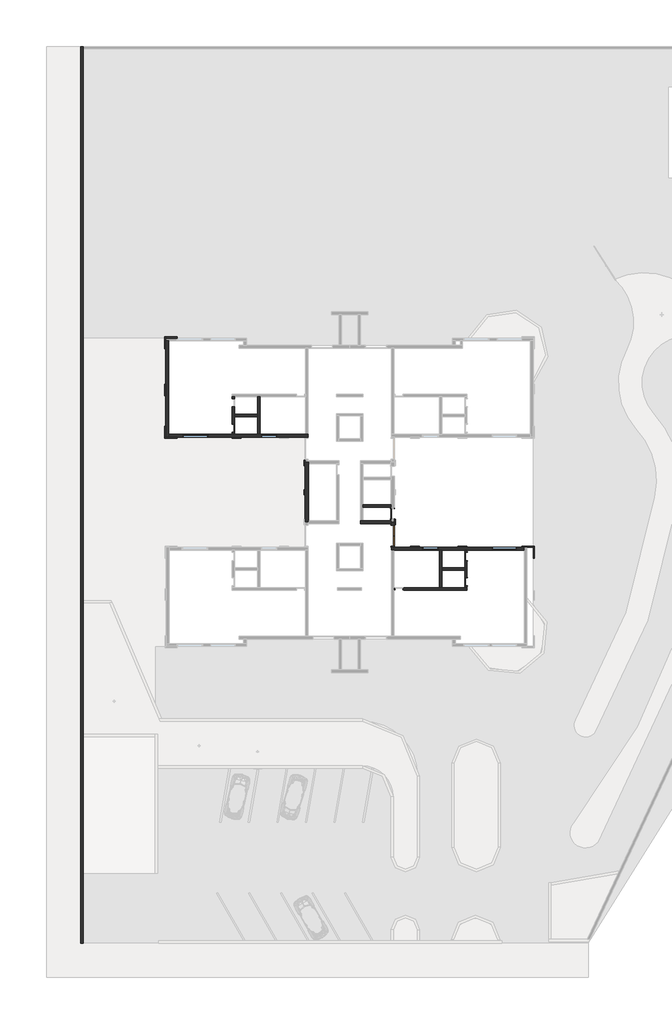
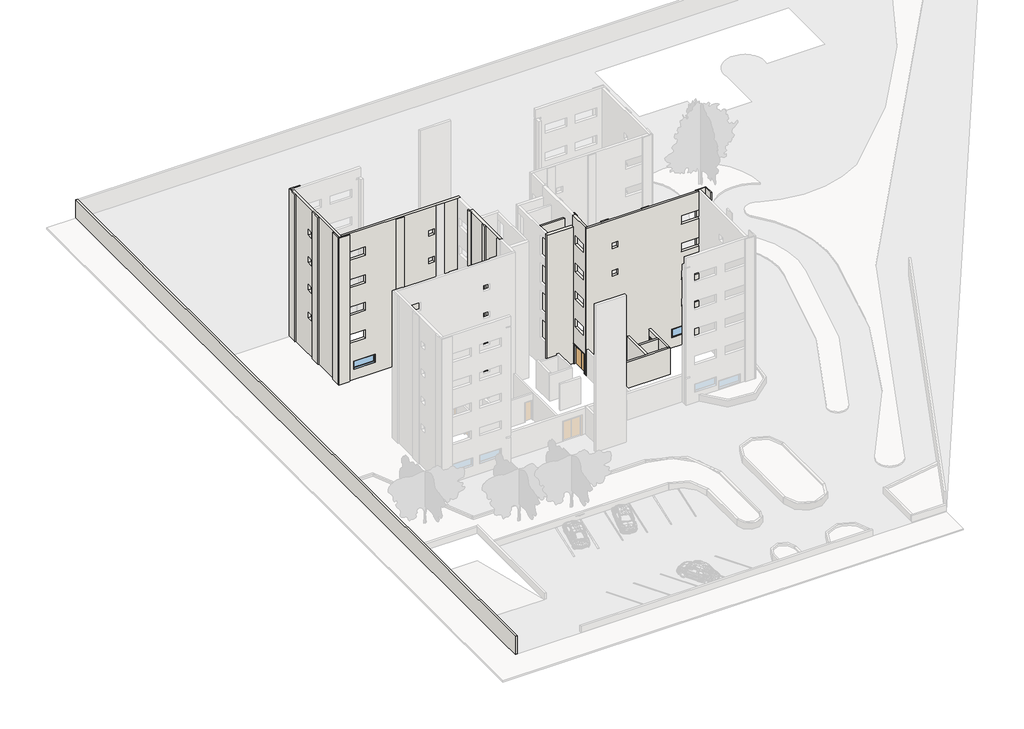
# One storey, part 3 of 6: 28 walls, 5 doors, 4 windows.
"""IFC4 building model written with IfcOpenShell, lengths in millimetres."""

from ifc_helpers import new_model, si_unit, origin, origin_with_axes, place, context, project, spatial, polyline, outline, extrude, faceted_brep, transform, mapped, element, save
from components import door_1830_x_2134_mm_dff67cf6, door_70_x_210_60989ca5, door_70_x_210_2a34fc55, door_90_x_210_977b44a1, window_140_x_90_5d7f9c6b, window_220_x_90_84e01c73

model = new_model("IFC4")

# Units and contexts
model_context = context("Model", 3, world=origin())
ifc_project = project(units=[si_unit("LENGTHUNIT", "METRE", prefix="MILLI")], contexts=[model_context])

# Site, building, storey
site = spatial("IfcSite", under=ifc_project)
building = spatial("IfcBuilding", under=site)
storey = spatial("IfcBuildingStorey", under=building, Name="Térreo", Elevation=0.0)

# Doors
placement = place(None, origin())
door_1830_x_2134_mm_shape = door_1830_x_2134_mm_dff67cf6(model_context)
element("IfcDoor", 1, ObjectType="Descarga dupla : 1830 x 2134 mm", at=placement, inside=storey, context=model_context, shape_type="MappedRepresentation", body=[
    mapped(door_1830_x_2134_mm_shape, transform((2748.7734258, -3016.3385375, 0.0), x_axis=(0.0, 1.0, 0.0), y_axis=(-1.0, 0.0, 0.0), z_axis=(0.0, 0.0, 1.0))),
])
door_70_x_210_shape = door_70_x_210_60989ca5(model_context)
element("IfcDoor", 2, ObjectType="M_Descarga simples : 70 x 210", at=placement, inside=storey, context=model_context, shape_type="MappedRepresentation", body=[
    mapped(door_70_x_210_shape, transform((-11191.2265742, 6383.6614625, 0.0), x_axis=(0.0, -1.0, 0.0), y_axis=(1.0, 0.0, 0.0), z_axis=(0.0, 0.0, 1.0))),
])
element("IfcDoor", 3, ObjectType="M_Descarga simples : 70 x 210", at=placement, inside=storey, context=model_context, shape_type="MappedRepresentation", body=[
    mapped(door_70_x_210_shape, transform((9138.7734258, -4836.3385375, 0.0), x_axis=(0.0, 1.0, 0.0), y_axis=(-1.0, 0.0, 0.0), z_axis=(0.0, 0.0, 1.0))),
])
door_70_x_210_2_shape = door_70_x_210_2a34fc55(model_context)
element("IfcDoor", 4, ObjectType="M_Descarga simples : 70 x 210", at=placement, inside=storey, context=model_context, shape_type="MappedRepresentation", body=[
    mapped(door_70_x_210_2_shape, transform((9138.7734258, -7036.3385375, 0.0), x_axis=(0.0, -1.0, 0.0), y_axis=(1.0, 0.0, 0.0), z_axis=(0.0, 0.0, 1.0))),
])
door_90_x_210_shape = door_90_x_210_977b44a1(model_context)
element("IfcDoor", 5, ObjectType="M_Descarga simples : 90 x 210", at=placement, inside=storey, context=model_context, shape_type="MappedRepresentation", body=[
    mapped(door_90_x_210_shape, transform((2723.7734258, -1106.3385375, 0.0), x_axis=(0.0, -1.0, 0.0), y_axis=(1.0, 0.0, 0.0), z_axis=(0.0, 0.0, 1.0))),
])

# Walls
element("IfcWall", 6, ObjectType="Exeterna 25", at=placement, inside=storey, context=model_context, shape_type="Brep", body=[
    faceted_brep([(-17116.2265742, 13983.6614625, 0.0), (-17116.2265742, 5583.6614625, 0.0), (-17116.2265742, 5583.6614625, 16000.0), (-17116.2265742, 13983.6614625, 16000.0), (-17116.2265742, 10513.6614625, 3915.0), (-17116.2265742, 11113.6614625, 3915.0), (-17116.2265742, 11113.6614625, 4515.0), (-17116.2265742, 10513.6614625, 4515.0), (-17116.2265742, 10513.6614625, 6915.0), (-17116.2265742, 11113.6614625, 6915.0), (-17116.2265742, 11113.6614625, 7515.0), (-17116.2265742, 10513.6614625, 7515.0), (-17116.2265742, 10513.6614625, 9915.0), (-17116.2265742, 11113.6614625, 9915.0), (-17116.2265742, 11113.6614625, 10515.0), (-17116.2265742, 10513.6614625, 10515.0), (-17116.2265742, 10513.6614625, 12915.0), (-17116.2265742, 11113.6614625, 12915.0), (-17116.2265742, 11113.6614625, 13515.0), (-17116.2265742, 10513.6614625, 13515.0), (-16866.2265742, 13983.6614625, 0.0), (-16866.2265742, 13983.6614625, 2850.0), (-16866.2265742, 13983.6614625, 3000.0), (-16866.2265742, 13983.6614625, 14850.0), (-16866.2265742, 13983.6614625, 15000.0), (-16866.2265742, 13983.6614625, 16000.0), (-16866.2265742, 5833.6614625, 16000.0), (-16866.2265742, 5583.6614625, 16000.0), (-16866.2265742, 5583.6614625, 0.0), (-16866.2265742, 5833.6614625, 0.0), (-16866.2265742, 10513.6614625, 3915.0), (-16866.2265742, 10513.6614625, 4515.0), (-16866.2265742, 11113.6614625, 4515.0), (-16866.2265742, 11113.6614625, 3915.0), (-16866.2265742, 10513.6614625, 6915.0), (-16866.2265742, 10513.6614625, 7515.0), (-16866.2265742, 11113.6614625, 7515.0), (-16866.2265742, 11113.6614625, 6915.0), (-16866.2265742, 10513.6614625, 9915.0), (-16866.2265742, 10513.6614625, 10515.0), (-16866.2265742, 11113.6614625, 10515.0), (-16866.2265742, 11113.6614625, 9915.0), (-16866.2265742, 10513.6614625, 12915.0), (-16866.2265742, 10513.6614625, 13515.0), (-16866.2265742, 11113.6614625, 13515.0), (-16866.2265742, 11113.6614625, 12915.0)], [[[0, 1, 2, 3], [4, 5, 6, 7], [8, 9, 10, 11], [12, 13, 14, 15], [16, 17, 18, 19]], [[20, 21, 22, 23, 24, 25, 26, 27, 28, 29], [30, 31, 32, 33], [34, 35, 36, 37], [38, 39, 40, 41], [42, 43, 44, 45]], [[1, 0, 20, 29, 28]], [[3, 2, 27, 26, 25]], [[2, 1, 28, 27]], [[0, 3, 25, 24, 23, 22, 21, 20]], [[31, 30, 4, 7]], [[32, 31, 7, 6]], [[33, 32, 6, 5]], [[30, 33, 5, 4]], [[35, 34, 8, 11]], [[36, 35, 11, 10]], [[37, 36, 10, 9]], [[34, 37, 9, 8]], [[39, 38, 12, 15]], [[40, 39, 15, 14]], [[41, 40, 14, 13]], [[38, 41, 13, 12]], [[43, 42, 16, 19]], [[44, 43, 19, 18]], [[45, 44, 18, 17]], [[42, 45, 17, 16]]]),
])
element("IfcWall", 7, ObjectType="Exeterna 25", at=placement, inside=storey, context=model_context, shape_type="Brep", body=[
    faceted_brep([(-16866.2265742, 5583.6614625, 0.0), (-4926.2265742, 5583.6614625, 0.0), (-4676.2265742, 5583.6614625, 0.0), (-4676.2265742, 5583.6614625, 2850.0), (-4676.2265742, 5583.6614625, 3000.0), (-4676.2265742, 5583.6614625, 14850.0), (-4676.2265742, 5583.6614625, 15000.0), (-4676.2265742, 5583.6614625, 16000.0), (-4926.2265742, 5583.6614625, 16000.0), (-16866.2265742, 5583.6614625, 16000.0), (-7316.2265742, 5583.6614625, 4515.0), (-7316.2265742, 5583.6614625, 3915.0), (-7916.2265742, 5583.6614625, 3915.0), (-7916.2265742, 5583.6614625, 4515.0), (-14416.2265742, 5583.6614625, 5000.0), (-14416.2265742, 5583.6614625, 4100.0), (-16616.2265742, 5583.6614625, 4100.0), (-16616.2265742, 5583.6614625, 5000.0), (-7316.2265742, 5583.6614625, 7515.0), (-7316.2265742, 5583.6614625, 6915.0), (-7916.2265742, 5583.6614625, 6915.0), (-7916.2265742, 5583.6614625, 7515.0), (-14416.2265742, 5583.6614625, 8000.0), (-14416.2265742, 5583.6614625, 7100.0), (-16616.2265742, 5583.6614625, 7100.0), (-16616.2265742, 5583.6614625, 8000.0), (-7316.2265742, 5583.6614625, 10515.0), (-7316.2265742, 5583.6614625, 9915.0), (-7916.2265742, 5583.6614625, 9915.0), (-7916.2265742, 5583.6614625, 10515.0), (-14416.2265742, 5583.6614625, 11000.0), (-14416.2265742, 5583.6614625, 10100.0), (-16616.2265742, 5583.6614625, 10100.0), (-16616.2265742, 5583.6614625, 11000.0), (-7316.2265742, 5583.6614625, 13515.0), (-7316.2265742, 5583.6614625, 12915.0), (-7916.2265742, 5583.6614625, 12915.0), (-7916.2265742, 5583.6614625, 13515.0), (-14416.2265742, 5583.6614625, 14000.0), (-14416.2265742, 5583.6614625, 13100.0), (-16616.2265742, 5583.6614625, 13100.0), (-16616.2265742, 5583.6614625, 14000.0), (-13396.2265742, 5583.6614625, 2000.0), (-13396.2265742, 5583.6614625, 1100.0), (-15596.2265742, 5583.6614625, 1100.0), (-15596.2265742, 5583.6614625, 2000.0), (-7376.2265742, 5583.6614625, 2000.0), (-7376.2265742, 5583.6614625, 1100.0), (-8776.2265742, 5583.6614625, 1100.0), (-8776.2265742, 5583.6614625, 2000.0), (-4676.2265742, 5833.6614625, 0.0), (-4876.2265742, 5833.6614625, 0.0), (-8876.2265742, 5833.6614625, 0.0), (-9076.2265742, 5833.6614625, 0.0), (-11091.2265742, 5833.6614625, 0.0), (-11291.2265742, 5833.6614625, 0.0), (-16866.2265742, 5833.6614625, 0.0), (-16866.2265742, 5833.6614625, 2850.0), (-16866.2265742, 5833.6614625, 3000.0), (-16866.2265742, 5833.6614625, 14850.0), (-16866.2265742, 5833.6614625, 15000.0), (-16866.2265742, 5833.6614625, 16000.0), (-4676.2265742, 5833.6614625, 16000.0), (-4676.2265742, 5833.6614625, 15000.0), (-4676.2265742, 5833.6614625, 14850.0), (-4676.2265742, 5833.6614625, 12000.0), (-4676.2265742, 5833.6614625, 11850.0), (-4676.2265742, 5833.6614625, 9000.0), (-4676.2265742, 5833.6614625, 8850.0), (-4676.2265742, 5833.6614625, 6000.0), (-4676.2265742, 5833.6614625, 5850.0), (-4676.2265742, 5833.6614625, 3000.0), (-4676.2265742, 5833.6614625, 2850.0), (-7316.2265742, 5833.6614625, 3915.0), (-7316.2265742, 5833.6614625, 4515.0), (-7916.2265742, 5833.6614625, 4515.0), (-7916.2265742, 5833.6614625, 3915.0), (-14416.2265742, 5833.6614625, 4100.0), (-14416.2265742, 5833.6614625, 5000.0), (-16616.2265742, 5833.6614625, 5000.0), (-16616.2265742, 5833.6614625, 4100.0), (-7316.2265742, 5833.6614625, 6915.0), (-7316.2265742, 5833.6614625, 7515.0), (-7916.2265742, 5833.6614625, 7515.0), (-7916.2265742, 5833.6614625, 6915.0), (-14416.2265742, 5833.6614625, 7100.0), (-14416.2265742, 5833.6614625, 8000.0), (-16616.2265742, 5833.6614625, 8000.0), (-16616.2265742, 5833.6614625, 7100.0), (-7316.2265742, 5833.6614625, 9915.0), (-7316.2265742, 5833.6614625, 10515.0), (-7916.2265742, 5833.6614625, 10515.0), (-7916.2265742, 5833.6614625, 9915.0), (-14416.2265742, 5833.6614625, 10100.0), (-14416.2265742, 5833.6614625, 11000.0), (-16616.2265742, 5833.6614625, 11000.0), (-16616.2265742, 5833.6614625, 10100.0), (-7316.2265742, 5833.6614625, 12915.0), (-7316.2265742, 5833.6614625, 13515.0), (-7916.2265742, 5833.6614625, 13515.0), (-7916.2265742, 5833.6614625, 12915.0), (-14416.2265742, 5833.6614625, 13100.0), (-14416.2265742, 5833.6614625, 14000.0), (-16616.2265742, 5833.6614625, 14000.0), (-16616.2265742, 5833.6614625, 13100.0), (-13396.2265742, 5833.6614625, 1100.0), (-13396.2265742, 5833.6614625, 2000.0), (-15596.2265742, 5833.6614625, 2000.0), (-15596.2265742, 5833.6614625, 1100.0), (-7376.2265742, 5833.6614625, 1100.0), (-7376.2265742, 5833.6614625, 2000.0), (-8776.2265742, 5833.6614625, 2000.0), (-8776.2265742, 5833.6614625, 1100.0)], [[[0, 1, 2, 3, 4, 5, 6, 7, 8, 9], [10, 11, 12, 13], [14, 15, 16, 17], [18, 19, 20, 21], [22, 23, 24, 25], [26, 27, 28, 29], [30, 31, 32, 33], [34, 35, 36, 37], [38, 39, 40, 41], [42, 43, 44, 45], [46, 47, 48, 49]], [[50, 51, 52, 53, 54, 55, 56, 57, 58, 59, 60, 61, 62, 63, 64, 65, 66, 67, 68, 69, 70, 71, 72], [73, 74, 75, 76], [77, 78, 79, 80], [81, 82, 83, 84], [85, 86, 87, 88], [89, 90, 91, 92], [93, 94, 95, 96], [97, 98, 99, 100], [101, 102, 103, 104], [105, 106, 107, 108], [109, 110, 111, 112]], [[2, 1, 0, 56, 55, 54, 53, 52, 51, 50]], [[9, 8, 7, 62, 61]], [[0, 9, 61, 60, 59, 58, 57, 56]], [[74, 73, 11, 10]], [[75, 74, 10, 13]], [[76, 75, 13, 12]], [[73, 76, 12, 11]], [[78, 77, 15, 14]], [[79, 78, 14, 17]], [[80, 79, 17, 16]], [[77, 80, 16, 15]], [[2, 50, 72, 71, 70, 69, 68, 67, 66, 65, 64, 63, 62, 7, 6, 5, 4, 3]], [[82, 81, 19, 18]], [[83, 82, 18, 21]], [[84, 83, 21, 20]], [[81, 84, 20, 19]], [[86, 85, 23, 22]], [[87, 86, 22, 25]], [[88, 87, 25, 24]], [[85, 88, 24, 23]], [[90, 89, 27, 26]], [[91, 90, 26, 29]], [[92, 91, 29, 28]], [[89, 92, 28, 27]], [[94, 93, 31, 30]], [[95, 94, 30, 33]], [[96, 95, 33, 32]], [[93, 96, 32, 31]], [[98, 97, 35, 34]], [[99, 98, 34, 37]], [[100, 99, 37, 36]], [[97, 100, 36, 35]], [[102, 101, 39, 38]], [[103, 102, 38, 41]], [[104, 103, 41, 40]], [[101, 104, 40, 39]], [[106, 105, 43, 42]], [[107, 106, 42, 45]], [[108, 107, 45, 44]], [[105, 108, 44, 43]], [[110, 109, 47, 46]], [[111, 110, 46, 49]], [[112, 111, 49, 48]], [[109, 112, 48, 47]]]),
])
element("IfcWall", 8, ObjectType="Exeterna 25", at=placement, inside=storey, context=model_context, shape_type="Brep", body=[
    faceted_brep([(14223.269929, -4036.3385375, 0.0), (2873.7734258, -4036.3385375, 0.0), (2623.7734258, -4036.3385375, 0.0), (2623.7734258, -4036.3385375, 2850.0), (2623.7734258, -4036.3385375, 3000.0), (2623.7734258, -4036.3385375, 14850.0), (2623.7734258, -4036.3385375, 15000.0), (2623.7734258, -4036.3385375, 16000.0), (2873.7734258, -4036.3385375, 16000.0), (14223.269929, -4036.3385375, 16000.0), (14223.269929, -4036.3385375, 14000.0), (12363.7734258, -4036.3385375, 14000.0), (12363.7734258, -4036.3385375, 13100.0), (14223.269929, -4036.3385375, 13100.0), (14223.269929, -4036.3385375, 11000.0), (12363.7734258, -4036.3385375, 11000.0), (12363.7734258, -4036.3385375, 10100.0), (14223.269929, -4036.3385375, 10100.0), (14223.269929, -4036.3385375, 8000.0), (12363.7734258, -4036.3385375, 8000.0), (12363.7734258, -4036.3385375, 7100.0), (14223.269929, -4036.3385375, 7100.0), (14223.269929, -4036.3385375, 5000.0), (12363.7734258, -4036.3385375, 5000.0), (12363.7734258, -4036.3385375, 4100.0), (14223.269929, -4036.3385375, 4100.0), (5863.7734258, -4036.3385375, 3915.0), (5863.7734258, -4036.3385375, 4515.0), (5263.7734258, -4036.3385375, 4515.0), (5263.7734258, -4036.3385375, 3915.0), (5863.7734258, -4036.3385375, 6915.0), (5863.7734258, -4036.3385375, 7515.0), (5263.7734258, -4036.3385375, 7515.0), (5263.7734258, -4036.3385375, 6915.0), (5863.7734258, -4036.3385375, 9915.0), (5863.7734258, -4036.3385375, 10515.0), (5263.7734258, -4036.3385375, 10515.0), (5263.7734258, -4036.3385375, 9915.0), (5863.7734258, -4036.3385375, 12915.0), (5863.7734258, -4036.3385375, 13515.0), (5263.7734258, -4036.3385375, 13515.0), (5263.7734258, -4036.3385375, 12915.0), (11393.7734258, -4036.3385375, 2000.0), (11393.7734258, -4036.3385375, 1100.0), (13593.7734258, -4036.3385375, 1100.0), (13593.7734258, -4036.3385375, 2000.0), (5323.7734258, -4036.3385375, 2000.0), (5323.7734258, -4036.3385375, 1100.0), (6723.7734258, -4036.3385375, 1100.0), (6723.7734258, -4036.3385375, 2000.0), (2623.7734258, -4286.3385375, 0.0), (2823.7734258, -4286.3385375, 0.0), (6823.7734258, -4286.3385375, 0.0), (7023.7734258, -4286.3385375, 0.0), (9038.7734258, -4286.3385375, 0.0), (9238.7734258, -4286.3385375, 0.0), (14223.269929, -4286.3385375, 0.0), (14223.269929, -4286.3385375, 2850.0), (14223.269929, -4286.3385375, 3000.0), (14223.269929, -4286.3385375, 4100.0), (12363.7734258, -4286.3385375, 4100.0), (12363.7734258, -4286.3385375, 5000.0), (14223.269929, -4286.3385375, 5000.0), (14223.269929, -4286.3385375, 7100.0), (12363.7734258, -4286.3385375, 7100.0), (12363.7734258, -4286.3385375, 8000.0), (14223.269929, -4286.3385375, 8000.0), (14223.269929, -4286.3385375, 10100.0), (12363.7734258, -4286.3385375, 10100.0), (12363.7734258, -4286.3385375, 11000.0), (14223.269929, -4286.3385375, 11000.0), (14223.269929, -4286.3385375, 13100.0), (12363.7734258, -4286.3385375, 13100.0), (12363.7734258, -4286.3385375, 14000.0), (14223.269929, -4286.3385375, 14000.0), (14223.269929, -4286.3385375, 14850.0), (14223.269929, -4286.3385375, 15000.0), (14223.269929, -4286.3385375, 16000.0), (2623.7734258, -4286.3385375, 16000.0), (2623.7734258, -4286.3385375, 15000.0), (2623.7734258, -4286.3385375, 14850.0), (2623.7734258, -4286.3385375, 12000.0), (2623.7734258, -4286.3385375, 11850.0), (2623.7734258, -4286.3385375, 9000.0), (2623.7734258, -4286.3385375, 8850.0), (2623.7734258, -4286.3385375, 6000.0), (2623.7734258, -4286.3385375, 5850.0), (2623.7734258, -4286.3385375, 3000.0), (2623.7734258, -4286.3385375, 2850.0), (5863.7734258, -4286.3385375, 4515.0), (5863.7734258, -4286.3385375, 3915.0), (5263.7734258, -4286.3385375, 3915.0), (5263.7734258, -4286.3385375, 4515.0), (5863.7734258, -4286.3385375, 7515.0), (5863.7734258, -4286.3385375, 6915.0), (5263.7734258, -4286.3385375, 6915.0), (5263.7734258, -4286.3385375, 7515.0), (5863.7734258, -4286.3385375, 10515.0), (5863.7734258, -4286.3385375, 9915.0), (5263.7734258, -4286.3385375, 9915.0), (5263.7734258, -4286.3385375, 10515.0), (5863.7734258, -4286.3385375, 13515.0), (5863.7734258, -4286.3385375, 12915.0), (5263.7734258, -4286.3385375, 12915.0), (5263.7734258, -4286.3385375, 13515.0), (11393.7734258, -4286.3385375, 1100.0), (11393.7734258, -4286.3385375, 2000.0), (13593.7734258, -4286.3385375, 2000.0), (13593.7734258, -4286.3385375, 1100.0), (5323.7734258, -4286.3385375, 1100.0), (5323.7734258, -4286.3385375, 2000.0), (6723.7734258, -4286.3385375, 2000.0), (6723.7734258, -4286.3385375, 1100.0)], [[[0, 1, 2, 3, 4, 5, 6, 7, 8, 9, 10, 11, 12, 13, 14, 15, 16, 17, 18, 19, 20, 21, 22, 23, 24, 25], [26, 27, 28, 29], [30, 31, 32, 33], [34, 35, 36, 37], [38, 39, 40, 41], [42, 43, 44, 45], [46, 47, 48, 49]], [[50, 51, 52, 53, 54, 55, 56, 57, 58, 59, 60, 61, 62, 63, 64, 65, 66, 67, 68, 69, 70, 71, 72, 73, 74, 75, 76, 77, 78, 79, 80, 81, 82, 83, 84, 85, 86, 87, 88], [89, 90, 91, 92], [93, 94, 95, 96], [97, 98, 99, 100], [101, 102, 103, 104], [105, 106, 107, 108], [109, 110, 111, 112]], [[2, 1, 0, 56, 55, 54, 53, 52, 51, 50]], [[9, 8, 7, 78, 77]], [[9, 77, 76, 75, 74, 10]], [[56, 0, 25, 59, 58, 57]], [[13, 71, 70, 14]], [[17, 67, 66, 18]], [[21, 63, 62, 22]], [[89, 27, 26, 90]], [[92, 28, 27, 89]], [[28, 92, 91, 29]], [[90, 26, 29, 91]], [[2, 50, 88, 87, 86, 85, 84, 83, 82, 81, 80, 79, 78, 7, 6, 5, 4, 3]], [[31, 30, 94, 93]], [[32, 31, 93, 96]], [[33, 32, 96, 95]], [[30, 33, 95, 94]], [[35, 34, 98, 97]], [[36, 35, 97, 100]], [[37, 36, 100, 99]], [[34, 37, 99, 98]], [[39, 38, 102, 101]], [[40, 39, 101, 104]], [[41, 40, 104, 103]], [[38, 41, 103, 102]], [[106, 105, 43, 42]], [[107, 106, 42, 45]], [[108, 107, 45, 44]], [[105, 108, 44, 43]], [[110, 109, 47, 46]], [[111, 110, 46, 49]], [[112, 111, 49, 48]], [[109, 112, 48, 47]], [[72, 12, 11, 73]], [[73, 11, 10, 74]], [[12, 72, 71, 13]], [[68, 16, 15, 69]], [[69, 15, 14, 70]], [[16, 68, 67, 17]], [[64, 20, 19, 65]], [[65, 19, 18, 66]], [[20, 64, 63, 21]], [[60, 24, 23, 61]], [[61, 23, 22, 62]], [[24, 60, 59, 25]]]),
])
element("IfcWall", 9, ObjectType="Exeterna 25", at=placement, inside=storey, context=model_context, shape_type="Brep", body=[
    faceted_brep([(2873.7734258, -1846.3385375, 16000.0), (2873.7734258, -4036.3385375, 16000.0), (2873.7734258, -4036.3385375, 0.0), (2873.7734258, -3931.3385375, 0.0), (2873.7734258, -3931.3385375, 2134.0), (2873.7734258, -2101.3385375, 2134.0), (2873.7734258, -2101.3385375, 0.0), (2873.7734258, -1846.3385375, 0.0), (2873.7734258, -3724.4383886, 5000.0), (2873.7734258, -2256.7552159, 5000.0), (2873.7734258, -2256.7552159, 4100.0), (2873.7734258, -3724.4383886, 4100.0), (2873.7734258, -3724.4383886, 8000.0), (2873.7734258, -2256.7552159, 8000.0), (2873.7734258, -2256.7552159, 7100.0), (2873.7734258, -3724.4383886, 7100.0), (2873.7734258, -3724.4383886, 11000.0), (2873.7734258, -2256.7552159, 11000.0), (2873.7734258, -2256.7552159, 10100.0), (2873.7734258, -3724.4383886, 10100.0), (2873.7734258, -3724.4383886, 14000.0), (2873.7734258, -2256.7552159, 14000.0), (2873.7734258, -2256.7552159, 13100.0), (2873.7734258, -3724.4383886, 13100.0), (2623.7734258, -4036.3385375, 16000.0), (2623.7734258, -1846.3385375, 16000.0), (2623.7734258, -1846.3385375, 15000.0), (2623.7734258, -1846.3385375, 14850.0), (2623.7734258, -1846.3385375, 3000.0), (2623.7734258, -1846.3385375, 2850.0), (2623.7734258, -1846.3385375, 0.0), (2623.7734258, -1996.3385375, 0.0), (2623.7734258, -2101.3385375, 0.0), (2623.7734258, -2101.3385375, 2134.0), (2623.7734258, -3931.3385375, 2134.0), (2623.7734258, -3931.3385375, 0.0), (2623.7734258, -4036.3385375, 0.0), (2623.7734258, -4036.3385375, 2850.0), (2623.7734258, -4036.3385375, 3000.0), (2623.7734258, -4036.3385375, 14850.0), (2623.7734258, -4036.3385375, 15000.0), (2623.7734258, -2256.7552159, 5000.0), (2623.7734258, -3724.4383886, 5000.0), (2623.7734258, -3724.4383886, 4100.0), (2623.7734258, -2256.7552159, 4100.0), (2623.7734258, -2256.7552159, 8000.0), (2623.7734258, -3724.4383886, 8000.0), (2623.7734258, -3724.4383886, 7100.0), (2623.7734258, -2256.7552159, 7100.0), (2623.7734258, -2256.7552159, 11000.0), (2623.7734258, -3724.4383886, 11000.0), (2623.7734258, -3724.4383886, 10100.0), (2623.7734258, -2256.7552159, 10100.0), (2623.7734258, -2256.7552159, 14000.0), (2623.7734258, -3724.4383886, 14000.0), (2623.7734258, -3724.4383886, 13100.0), (2623.7734258, -2256.7552159, 13100.0)], [[[0, 1, 2, 3, 4, 5, 6, 7], [8, 9, 10, 11], [12, 13, 14, 15], [16, 17, 18, 19], [20, 21, 22, 23]], [[24, 25, 26, 27, 28, 29, 30, 31, 32, 33, 34, 35, 36, 37, 38, 39, 40], [41, 42, 43, 44], [45, 46, 47, 48], [49, 50, 51, 52], [53, 54, 55, 56]], [[2, 36, 35, 3]], [[30, 7, 6, 32, 31]], [[1, 0, 25, 24]], [[5, 33, 32, 6]], [[33, 5, 4, 34]], [[34, 4, 3, 35]], [[8, 42, 41, 9]], [[10, 44, 43, 11]], [[42, 8, 11, 43]], [[9, 41, 44, 10]], [[12, 46, 45, 13]], [[14, 48, 47, 15]], [[46, 12, 15, 47]], [[13, 45, 48, 14]], [[16, 50, 49, 17]], [[18, 52, 51, 19]], [[50, 16, 19, 51]], [[17, 49, 52, 18]], [[20, 54, 53, 21]], [[22, 56, 55, 23]], [[54, 20, 23, 55]], [[21, 53, 56, 22]], [[1, 24, 40, 39, 38, 37, 36, 2]], [[7, 30, 29, 28, 27, 26, 25, 0]]]),
])
element("IfcWall", 10, ObjectType="Estrutura - Interna 30", at=placement, inside=storey, context=model_context, shape_type="Brep", body=[
    faceted_brep([(-76.2265742, -1996.3385375, 14850.0), (-76.2265742, -1996.3385375, 12000.0), (-76.2265742, -1996.3385375, 11850.0), (-76.2265742, -1996.3385375, 9000.0), (-76.2265742, -1996.3385375, 8850.0), (-76.2265742, -1996.3385375, 6000.0), (-76.2265742, -1996.3385375, 5850.0), (-76.2265742, -1996.3385375, 3000.0), (-76.2265742, -1996.3385375, 0.0), (2623.7734258, -1996.3385375, 0.0), (2623.7734258, -1996.3385375, 14850.0), (123.7734258, -1996.3385375, 14850.0), (-76.2265742, -1696.3385375, 0.0), (-76.2265742, -1696.3385375, 14850.0), (123.7734258, -1696.3385375, 14850.0), (2573.7734258, -1696.3385375, 14850.0), (2573.7734258, -1696.3385375, 0.0), (123.7734258, -1696.3385375, 0.0), (2573.7734258, -1846.3385375, 0.0), (2623.7734258, -1846.3385375, 0.0), (2623.7734258, -1846.3385375, 14850.0), (2573.7734258, -1846.3385375, 14850.0)], [[[0, 1, 2, 3, 4, 5, 6, 7, 8, 9, 10, 11]], [[12, 13, 14, 15, 16, 17]], [[9, 8, 12, 17, 16, 18, 19]], [[0, 11, 10, 20, 21, 15, 14, 13]], [[10, 9, 19, 20]], [[19, 18, 21, 20]], [[18, 16, 15, 21]], [[0, 13, 12, 8, 7, 6, 5, 4, 3, 2, 1]]]),
])
element("IfcWall", 11, ObjectType="Estrutura 20", at=placement, inside=storey, context=model_context, shape_type="SweptSolid", body=[
    extrude(outline(polyline([(2573.7734258, -516.3385375), (123.7734258, -516.3385375), (123.7734258, -316.3385375), (2573.7734258, -316.3385375), (2573.7734258, -516.3385375)])), origin_with_axes(), (0.0, 0.0, 1.0), 14850.0),
])
element("IfcWall", 12, ObjectType="Estrutura 20", at=placement, inside=storey, context=model_context, shape_type="Brep", body=[
    faceted_brep([(-11291.2265742, 6033.6614625, 2100.0), (-11291.2265742, 6033.6614625, 0.0), (-11291.2265742, 5833.6614625, 0.0), (-11291.2265742, 5833.6614625, 2850.0), (-11291.2265742, 9133.6614625, 2850.0), (-11291.2265742, 9133.6614625, 0.0), (-11291.2265742, 8933.6614625, 0.0), (-11291.2265742, 8933.6614625, 2100.0), (-11291.2265742, 8233.6614625, 2100.0), (-11291.2265742, 8233.6614625, 0.0), (-11291.2265742, 6733.6614625, 0.0), (-11291.2265742, 6733.6614625, 2100.0), (-11091.2265742, 5833.6614625, 0.0), (-11091.2265742, 6033.6614625, 0.0), (-11091.2265742, 6033.6614625, 2100.0), (-11091.2265742, 6733.6614625, 2100.0), (-11091.2265742, 6733.6614625, 0.0), (-11091.2265742, 7383.6614625, 0.0), (-11091.2265742, 7583.6614625, 0.0), (-11091.2265742, 8233.6614625, 0.0), (-11091.2265742, 8233.6614625, 2100.0), (-11091.2265742, 8933.6614625, 2100.0), (-11091.2265742, 8933.6614625, 0.0), (-11091.2265742, 9133.6614625, 0.0), (-11091.2265742, 9133.6614625, 2850.0), (-11091.2265742, 7583.6614625, 2850.0), (-11091.2265742, 7383.6614625, 2850.0), (-11091.2265742, 5833.6614625, 2850.0)], [[[0, 1, 2, 3, 4, 5, 6, 7, 8, 9, 10, 11]], [[12, 13, 14, 15, 16, 17, 18, 19, 20, 21, 22, 23, 24, 25, 26, 27]], [[23, 22, 6, 5]], [[10, 9, 19, 18, 17, 16]], [[2, 1, 13, 12]], [[5, 4, 24, 23]], [[7, 6, 22, 21]], [[8, 7, 21, 20]], [[9, 8, 20, 19]], [[14, 13, 1, 0]], [[15, 14, 0, 11]], [[16, 15, 11, 10]], [[3, 2, 12, 27]], [[4, 3, 27, 26, 25, 24]]]),
])
element("IfcWall", 13, ObjectType="Estrutura 20", at=placement, inside=storey, context=model_context, shape_type="Brep", body=[
    faceted_brep([(-9076.2265742, 9133.6614625, 0.0), (-9076.2265742, 7583.6614625, 0.0), (-9076.2265742, 7383.6614625, 0.0), (-9076.2265742, 5833.6614625, 0.0), (-9076.2265742, 5833.6614625, 2850.0), (-9076.2265742, 7383.6614625, 2850.0), (-9076.2265742, 7583.6614625, 2850.0), (-9076.2265742, 9133.6614625, 2850.0), (-8876.2265742, 9133.6614625, 0.0), (-8876.2265742, 9133.6614625, 2850.0), (-8876.2265742, 5833.6614625, 2850.0), (-8876.2265742, 5833.6614625, 0.0)], [[[0, 1, 2, 3, 4, 5, 6, 7]], [[8, 9, 10, 11]], [[3, 2, 1, 0, 8, 11]], [[0, 7, 9, 8]], [[4, 3, 11, 10]], [[7, 6, 5, 4, 10, 9]]]),
])
element("IfcWall", 14, ObjectType="Estrutura 20", at=placement, inside=storey, context=model_context, shape_type="SweptSolid", body=[
    extrude(outline(polyline([(-9076.2265742, 7383.6614625), (-11091.2265742, 7383.6614625), (-11091.2265742, 7583.6614625), (-9076.2265742, 7583.6614625), (-9076.2265742, 7383.6614625)])), origin_with_axes(), (0.0, 0.0, 1.0), 2850.0),
])
element("IfcWall", 15, ObjectType="Estrutura 20", at=placement, inside=storey, context=model_context, shape_type="Brep", body=[
    faceted_brep([(2823.7734258, -7786.3385375, 0.0), (2923.7734258, -7786.3385375, 0.0), (2923.7734258, -7786.3385375, 2100.0), (3623.7734258, -7786.3385375, 2100.0), (3623.7734258, -7786.3385375, 0.0), (9238.7734258, -7786.3385375, 0.0), (9238.7734258, -7786.3385375, 2850.0), (2823.7734258, -7786.3385375, 2850.0), (2923.7734258, -7586.3385375, 2100.0), (2923.7734258, -7586.3385375, 0.0), (2823.7734258, -7586.3385375, 0.0), (2823.7734258, -7586.3385375, 2850.0), (6823.7734258, -7586.3385375, 2850.0), (7023.7734258, -7586.3385375, 2850.0), (9038.7734258, -7586.3385375, 2850.0), (9238.7734258, -7586.3385375, 2850.0), (9238.7734258, -7586.3385375, 0.0), (9038.7734258, -7586.3385375, 0.0), (7023.7734258, -7586.3385375, 0.0), (6823.7734258, -7586.3385375, 0.0), (3623.7734258, -7586.3385375, 0.0), (3623.7734258, -7586.3385375, 2100.0)], [[[0, 1, 2, 3, 4, 5, 6, 7]], [[8, 9, 10, 11, 12, 13, 14, 15, 16, 17, 18, 19, 20, 21]], [[10, 9, 1, 0]], [[20, 19, 18, 17, 16, 5, 4]], [[0, 7, 11, 10]], [[6, 5, 16, 15]], [[2, 1, 9, 8]], [[3, 2, 8, 21]], [[4, 3, 21, 20]], [[7, 6, 15, 14, 13, 12, 11]]]),
])
element("IfcWall", 16, ObjectType="Estrutura 20", at=placement, inside=storey, context=model_context, shape_type="Brep", body=[
    faceted_brep([(9238.7734258, -4486.3385375, 2100.0), (9238.7734258, -4486.3385375, 0.0), (9238.7734258, -4286.3385375, 0.0), (9238.7734258, -4286.3385375, 2850.0), (9238.7734258, -7586.3385375, 2850.0), (9238.7734258, -7586.3385375, 0.0), (9238.7734258, -7386.3385375, 0.0), (9238.7734258, -7386.3385375, 2100.0), (9238.7734258, -6686.3385375, 2100.0), (9238.7734258, -6686.3385375, 0.0), (9238.7734258, -5186.3385375, 0.0), (9238.7734258, -5186.3385375, 2100.0), (9038.7734258, -4286.3385375, 0.0), (9038.7734258, -4486.3385375, 0.0), (9038.7734258, -4486.3385375, 2100.0), (9038.7734258, -5186.3385375, 2100.0), (9038.7734258, -5186.3385375, 0.0), (9038.7734258, -5836.3385375, 0.0), (9038.7734258, -6036.3385375, 0.0), (9038.7734258, -6686.3385375, 0.0), (9038.7734258, -6686.3385375, 2100.0), (9038.7734258, -7386.3385375, 2100.0), (9038.7734258, -7386.3385375, 0.0), (9038.7734258, -7586.3385375, 0.0), (9038.7734258, -7586.3385375, 2850.0), (9038.7734258, -6036.3385375, 2850.0), (9038.7734258, -5836.3385375, 2850.0), (9038.7734258, -4286.3385375, 2850.0)], [[[0, 1, 2, 3, 4, 5, 6, 7, 8, 9, 10, 11]], [[12, 13, 14, 15, 16, 17, 18, 19, 20, 21, 22, 23, 24, 25, 26, 27]], [[23, 22, 6, 5]], [[10, 9, 19, 18, 17, 16]], [[2, 1, 13, 12]], [[5, 4, 24, 23]], [[7, 6, 22, 21]], [[8, 7, 21, 20]], [[9, 8, 20, 19]], [[14, 13, 1, 0]], [[15, 14, 0, 11]], [[16, 15, 11, 10]], [[3, 2, 12, 27]], [[4, 3, 27, 26, 25, 24]]]),
])
element("IfcWall", 17, ObjectType="Estrutura 20", at=placement, inside=storey, context=model_context, shape_type="Brep", body=[
    faceted_brep([(7023.7734258, -7586.3385375, 0.0), (7023.7734258, -6036.3385375, 0.0), (7023.7734258, -5836.3385375, 0.0), (7023.7734258, -4286.3385375, 0.0), (7023.7734258, -4286.3385375, 2850.0), (7023.7734258, -5836.3385375, 2850.0), (7023.7734258, -6036.3385375, 2850.0), (7023.7734258, -7586.3385375, 2850.0), (6823.7734258, -7586.3385375, 0.0), (6823.7734258, -7586.3385375, 2850.0), (6823.7734258, -4286.3385375, 2850.0), (6823.7734258, -4286.3385375, 0.0)], [[[0, 1, 2, 3, 4, 5, 6, 7]], [[8, 9, 10, 11]], [[3, 2, 1, 0, 8, 11]], [[0, 7, 9, 8]], [[4, 3, 11, 10]], [[7, 6, 5, 4, 10, 9]]]),
])
element("IfcWall", 18, ObjectType="Estrutura 20", at=placement, inside=storey, context=model_context, shape_type="SweptSolid", body=[
    extrude(outline(polyline([(7023.7734258, -5836.3385375), (9038.7734258, -5836.3385375), (9038.7734258, -6036.3385375), (7023.7734258, -6036.3385375), (7023.7734258, -5836.3385375)])), origin_with_axes(), (0.0, 0.0, 1.0), 2850.0),
])
element("IfcWall", 19, ObjectType="Estrutura 30", at=placement, inside=storey, context=model_context, shape_type="Brep", body=[
    faceted_brep([(-4626.2265742, -1846.3385375, 16000.0), (-4626.2265742, -1846.3385375, 14850.0), (-4626.2265742, -1846.3385375, 0.0), (-4626.2265742, -1696.3385375, 0.0), (-4626.2265742, 3243.6614625, 0.0), (-4626.2265742, 3393.6614625, 0.0), (-4626.2265742, 3393.6614625, 14850.0), (-4626.2265742, 3393.6614625, 16000.0), (-4926.2265742, -1846.3385375, 0.0), (-4926.2265742, -1846.3385375, 16000.0), (-4926.2265742, 3393.6614625, 16000.0), (-4926.2265742, 3393.6614625, 0.0), (-4676.2265742, -1846.3385375, 0.0), (-4676.2265742, 3393.6614625, 0.0), (-4676.2265742, 3393.6614625, 16000.0), (-4676.2265742, -1846.3385375, 16000.0)], [[[0, 1, 2, 3, 4, 5, 6, 7]], [[8, 9, 10, 11]], [[5, 4, 3, 2, 12, 8, 11, 13]], [[0, 7, 14, 10, 9, 15]], [[0, 15, 9, 8, 12, 2, 1]], [[5, 13, 11, 10, 14, 7, 6]]]),
])
element("IfcWall", 20, ObjectType="Externa Muro", at=placement, inside=storey, context=model_context, shape_type="Brep", body=[
    faceted_brep([(-24517.9141262, 39694.5466212, 0.0), (-24517.9141262, -38595.8732274, 0.0), (-24517.9141262, -38595.8732274, 2000.0), (-24517.9141262, 39694.5466212, 2000.0), (-24317.9141262, 39694.5466212, 0.0), (-24317.9141262, 39694.5466212, 2000.0), (-24317.9141262, 39494.5466212, 2000.0), (-24317.9141262, -38595.8732274, 2000.0), (-24317.9141262, -38595.8732274, 0.0), (-24317.9141262, -20575.5927534, 0.0), (-24317.9141262, -20375.5927534, 0.0), (-24317.9141262, -8892.5709243, 0.0), (-24317.9141262, -8692.5709243, 0.0), (-24317.9141262, 39494.5466212, 0.0)], [[[0, 1, 2, 3]], [[4, 5, 6, 7, 8, 9, 10, 11, 12, 13]], [[1, 0, 4, 13, 12, 11, 10, 9, 8]], [[2, 1, 8, 7]], [[3, 2, 7, 6, 5]], [[0, 3, 5, 4]]]),
])
element("IfcWall", 21, ObjectType="detalhe", at=placement, inside=storey, context=model_context, shape_type="SweptSolid", body=[
    extrude(outline(polyline([(-4926.2265742, 1011.8432807), (-4926.2265742, 535.4796443), (-5026.2265742, 535.4796443), (-5026.2265742, 1011.8432807), (-4926.2265742, 1011.8432807)])), origin_with_axes(), (0.0, 0.0, 1.0), 16000.0),
])
element("IfcWall", 22, ObjectType="detalhe", at=placement, inside=storey, context=model_context, shape_type="SweptSolid", body=[
    extrude(outline(polyline([(-4926.2265742, 3564.5705534), (-4926.2265742, 3088.2069171), (-5026.2265742, 3088.2069171), (-5026.2265742, 3564.5705534), (-4926.2265742, 3564.5705534)])), origin_with_axes(), (0.0, 0.0, 1.0), 16000.0),
])
element("IfcWall", 23, ObjectType="detalhe", at=placement, inside=storey, context=model_context, shape_type="SweptSolid", body=[
    extrude(outline(polyline([(-11286.2265742, 5583.6614625), (-10496.2265742, 5583.6614625), (-10496.2265742, 5483.6614625), (-11286.2265742, 5483.6614625), (-11286.2265742, 5583.6614625)])), origin_with_axes(), (0.0, 0.0, 1.0), 16000.0),
])
element("IfcWall", 24, ObjectType="detalhe", at=placement, inside=storey, context=model_context, shape_type="Brep", body=[
    faceted_brep([(-16096.2265742, 5583.6614625, 0.0), (-17116.2265742, 5583.6614625, 0.0), (-17216.2265742, 5583.6614625, 0.0), (-17216.2265742, 5583.6614625, 16000.0), (-17116.2265742, 5583.6614625, 16000.0), (-16096.2265742, 5583.6614625, 16000.0), (-16096.2265742, 5483.6614625, 0.0), (-16096.2265742, 5483.6614625, 16000.0), (-17216.2265742, 5483.6614625, 16000.0), (-17216.2265742, 5483.6614625, 0.0)], [[[0, 1, 2, 3, 4, 5]], [[6, 7, 8, 9]], [[2, 1, 0, 6, 9]], [[5, 4, 3, 8, 7]], [[0, 5, 7, 6]], [[3, 2, 9, 8]]]),
])
element("IfcWall", 25, ObjectType="detalhe", at=placement, inside=storey, context=model_context, shape_type="SweptSolid", body=[
    extrude(outline(polyline([(-17116.2265742, 6533.6614625), (-17116.2265742, 5583.6614625), (-17216.2265742, 5583.6614625), (-17216.2265742, 6533.6614625), (-17116.2265742, 6533.6614625)])), origin_with_axes(), (0.0, 0.0, 1.0), 16000.0),
])
element("IfcWall", 26, ObjectType="detalhe", at=placement, inside=storey, context=model_context, shape_type="SweptSolid", body=[
    extrude(outline(polyline([(-17116.2265742, 10223.6614625), (-17116.2265742, 9183.6614625), (-17216.2265742, 9183.6614625), (-17216.2265742, 10223.6614625), (-17116.2265742, 10223.6614625)])), origin_with_axes(), (0.0, 0.0, 1.0), 16000.0),
])
element("IfcWall", 27, ObjectType="detalhe", at=placement, inside=storey, context=model_context, shape_type="Brep", body=[
    faceted_brep([(-17116.2265742, 13283.6614625, 0.0), (-17116.2265742, 14233.6614625, 0.0), (-17116.2265742, 14333.6614625, 0.0), (-17116.2265742, 14333.6614625, 16000.0), (-17116.2265742, 14233.6614625, 16000.0), (-17116.2265742, 13283.6614625, 16000.0), (-17216.2265742, 13283.6614625, 0.0), (-17216.2265742, 13283.6614625, 16000.0), (-17216.2265742, 14333.6614625, 16000.0), (-17216.2265742, 14333.6614625, 0.0)], [[[0, 1, 2, 3, 4, 5]], [[6, 7, 8, 9]], [[2, 1, 0, 6, 9]], [[5, 4, 3, 8, 7]], [[0, 5, 7, 6]], [[3, 2, 9, 8]]]),
])
element("IfcWall", 28, ObjectType="detalhe", at=placement, inside=storey, context=model_context, shape_type="SweptSolid", body=[
    extrude(outline(polyline([(-16096.2265742, 14233.6614625), (-17116.2265742, 14233.6614625), (-17116.2265742, 14333.6614625), (-16096.2265742, 14333.6614625), (-16096.2265742, 14233.6614625)])), origin_with_axes(), (0.0, 0.0, 1.0), 16000.0),
])
element("IfcWall", 29, ObjectType="detalhe", at=placement, inside=storey, context=model_context, shape_type="SweptSolid", body=[
    extrude(outline(polyline([(2873.7734258, -2057.2476284), (2873.7734258, -1580.883992), (2973.7734258, -1580.883992), (2973.7734258, -2057.2476284), (2873.7734258, -2057.2476284)])), origin_with_axes(), (0.0, 0.0, 1.0), 16000.0),
])
element("IfcWall", 30, ObjectType="detalhe", at=placement, inside=storey, context=model_context, shape_type="SweptSolid", body=[
    extrude(outline(polyline([(5083.7734258, -4036.3385375), (4293.7734258, -4036.3385375), (4293.7734258, -3936.3385375), (5083.7734258, -3936.3385375), (5083.7734258, -4036.3385375)])), origin_with_axes(), (0.0, 0.0, 1.0), 16000.0),
])
element("IfcWall", 31, ObjectType="detalhe", at=placement, inside=storey, context=model_context, shape_type="SweptSolid", body=[
    extrude(outline(polyline([(9233.7734258, -4036.3385375), (8443.7734258, -4036.3385375), (8443.7734258, -3936.3385375), (9233.7734258, -3936.3385375), (9233.7734258, -4036.3385375)])), origin_with_axes(), (0.0, 0.0, 1.0), 16000.0),
])
element("IfcWall", 32, ObjectType="detalhe", at=placement, inside=storey, context=model_context, shape_type="Brep", body=[
    faceted_brep([(14043.7734258, -4036.3385375, 0.0), (15013.7734258, -4036.3385375, 0.0), (15113.7734258, -4036.3385375, 0.0), (15113.7734258, -4036.3385375, 16000.0), (15013.7734258, -4036.3385375, 16000.0), (14043.7734258, -4036.3385375, 16000.0), (14043.7734258, -3936.3385375, 0.0), (14043.7734258, -3936.3385375, 16000.0), (15113.7734258, -3936.3385375, 16000.0), (15113.7734258, -3936.3385375, 0.0)], [[[0, 1, 2, 3, 4, 5]], [[6, 7, 8, 9]], [[2, 1, 0, 6, 9]], [[5, 4, 3, 8, 7]], [[0, 5, 7, 6]], [[3, 2, 9, 8]]]),
])
element("IfcWall", 33, ObjectType="detalhe", at=placement, inside=storey, context=model_context, shape_type="SweptSolid", body=[
    extrude(outline(polyline([(15013.7734258, -4986.3385375), (15013.7734258, -4036.3385375), (15113.7734258, -4036.3385375), (15113.7734258, -4986.3385375), (15013.7734258, -4986.3385375)])), origin_with_axes(), (0.0, 0.0, 1.0), 16000.0),
])

# Windows
window_140_x_90_shape = window_140_x_90_5d7f9c6b(model_context)
element("IfcWindow", 34, ObjectType="M_Fixado : 140 x 90", at=placement, inside=storey, context=model_context, shape_type="MappedRepresentation", body=[
    mapped(window_140_x_90_shape, transform((6023.7734258, -4148.3385375, 185.0), x_axis=(1.0, 0.0, 0.0), y_axis=(0.0, 1.0, 0.0), z_axis=(0.0, 0.0, 1.0))),
])
element("IfcWindow", 35, ObjectType="M_Fixado : 140 x 90", at=placement, inside=storey, context=model_context, shape_type="MappedRepresentation", body=[
    mapped(window_140_x_90_shape, transform((-8076.2265742, 5695.6614625, 185.0), x_axis=(-1.0, 0.0, 0.0), y_axis=(0.0, -1.0, 0.0), z_axis=(0.0, 0.0, 1.0))),
])
window_220_x_90_shape = window_220_x_90_84e01c73(model_context)
element("IfcWindow", 36, ObjectType="M_Fixado : 220 x 90", at=placement, inside=storey, context=model_context, shape_type="MappedRepresentation", body=[
    mapped(window_220_x_90_shape, transform((12493.7734258, -4148.3385375, 185.0), x_axis=(1.0, 0.0, 0.0), y_axis=(0.0, 1.0, 0.0), z_axis=(0.0, 0.0, 1.0))),
])
element("IfcWindow", 37, ObjectType="M_Fixado : 220 x 90", at=placement, inside=storey, context=model_context, shape_type="MappedRepresentation", body=[
    mapped(window_220_x_90_shape, transform((-14496.2265742, 5695.6614625, 185.0), x_axis=(-1.0, 0.0, 0.0), y_axis=(0.0, -1.0, 0.0), z_axis=(0.0, 0.0, 1.0))),
])

save(model, "model.ifc")
